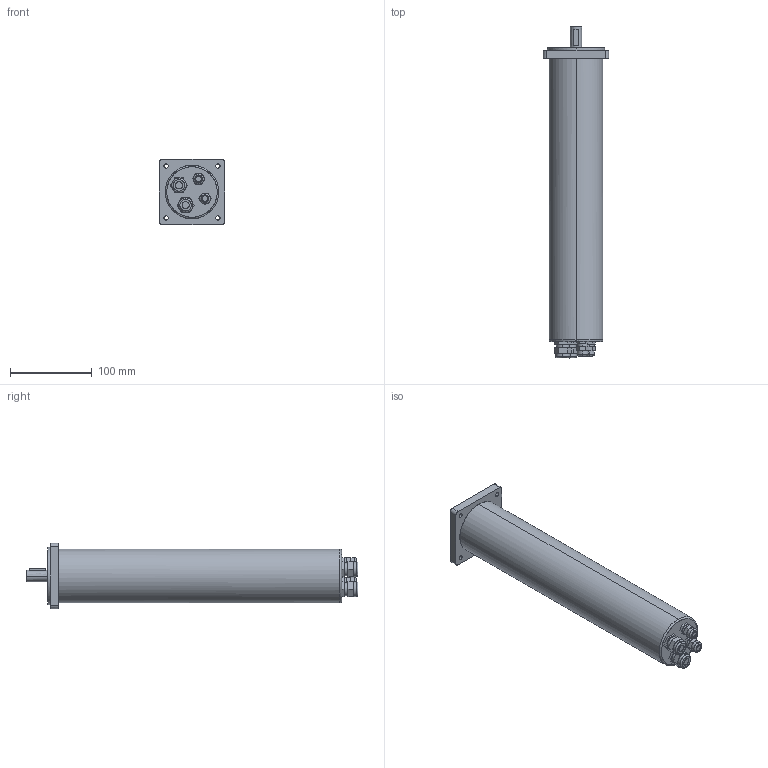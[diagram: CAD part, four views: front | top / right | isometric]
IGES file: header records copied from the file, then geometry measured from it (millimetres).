
Start section: Comment
Global section: file name: LT0174-11GB.igs; native system:  By UGS Corp.; preprocessor: XPlus GENERIC/IGES 3.0; author: Author; organization: Title; date: 20110929.094502; units: millimetre
Bounding box: 80 x 407.2 x 80 mm (x, y, z)
Surface area: 94810.2 mm2 (no closed solid volume)
Topology: 0 solids, 0 shells, 163 faces, 748 edges, 748 vertices
Faces by surface type: bspline 163
